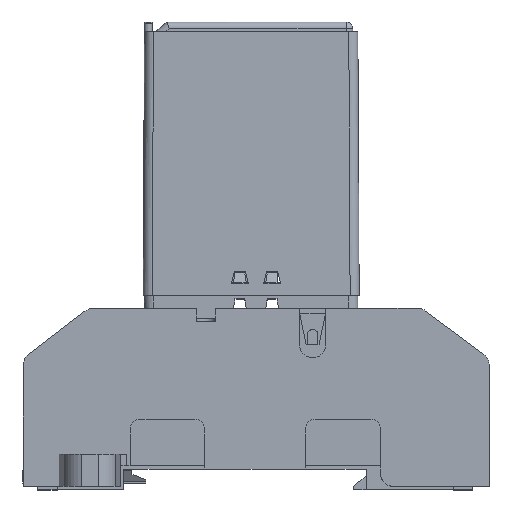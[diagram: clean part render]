
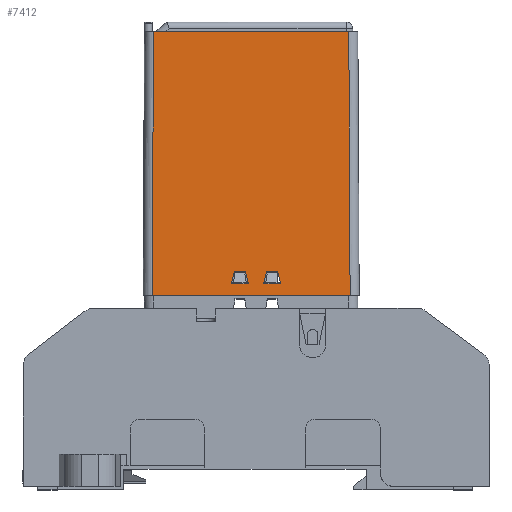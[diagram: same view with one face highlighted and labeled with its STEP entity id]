
A CAD part, top view. The second image highlights one B-rep face of the part: STEP entity #7412.
In plain terms, the highlighted planar face has unit normal (0, 0.005, 1) as drawn and (0, 0.005, -1) by its records, which use the part's own axes.
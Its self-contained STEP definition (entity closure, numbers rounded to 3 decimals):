
#7412=ADVANCED_FACE('',(#16226,#16228,#16230),#16232,.T.);
#16226=FACE_BOUND('',#16227,.T.);
#16227=EDGE_LOOP('',(#23315,#23316,#23317,#23318));
#16228=FACE_BOUND('',#16229,.T.);
#16229=EDGE_LOOP('',(#23319,#23320,#23321,#23322));
#16230=FACE_BOUND('',#16231,.T.);
#16231=EDGE_LOOP('',(#23323,#23324,#23325,#23326));
#16232=PLANE('',#16233);
#16233=AXIS2_PLACEMENT_3D('',#16234,#16235,#16236);
#16234=CARTESIAN_POINT('',(-15.1,44.3,-13.75));
#16235=DIRECTION('',(0.,0.005,-1.));
#16236=DIRECTION('',(1.,0.,0.));
#23315=ORIENTED_EDGE('',*,*,#26765,.F.);
#23316=ORIENTED_EDGE('',*,*,#27332,.F.);
#23317=ORIENTED_EDGE('',*,*,#27333,.T.);
#23318=ORIENTED_EDGE('',*,*,#27091,.T.);
#23319=ORIENTED_EDGE('',*,*,#27334,.T.);
#23320=ORIENTED_EDGE('',*,*,#27335,.T.);
#23321=ORIENTED_EDGE('',*,*,#27336,.T.);
#23322=ORIENTED_EDGE('',*,*,#27337,.T.);
#23323=ORIENTED_EDGE('',*,*,#27338,.T.);
#23324=ORIENTED_EDGE('',*,*,#27339,.T.);
#23325=ORIENTED_EDGE('',*,*,#27340,.T.);
#23326=ORIENTED_EDGE('',*,*,#27341,.T.);
#26765=EDGE_CURVE('',#30995,#30997,#30998,.T.);
#27091=EDGE_CURVE('',#31514,#30997,#31515,.T.);
#27332=EDGE_CURVE('',#31930,#30995,#31932,.T.);
#27333=EDGE_CURVE('',#31930,#31514,#31933,.T.);
#27334=EDGE_CURVE('',#31934,#31935,#31936,.F.);
#27335=EDGE_CURVE('',#31935,#31937,#31938,.F.);
#27336=EDGE_CURVE('',#31937,#31939,#31940,.F.);
#27337=EDGE_CURVE('',#31939,#31934,#31941,.F.);
#27338=EDGE_CURVE('',#31942,#31943,#31944,.F.);
#27339=EDGE_CURVE('',#31943,#31945,#31946,.F.);
#27340=EDGE_CURVE('',#31945,#31947,#31948,.F.);
#27341=EDGE_CURVE('',#31947,#31942,#31949,.F.);
#30995=VERTEX_POINT('',#39763);
#30997=VERTEX_POINT('',#39768);
#30998=LINE('',#39769,#39770);
#31514=VERTEX_POINT('',#40982);
#31515=LINE('',#40983,#40984);
#31930=VERTEX_POINT('',#41935);
#31932=LINE('',#41940,#41941);
#31933=LINE('',#41943,#41944);
#31934=VERTEX_POINT('',#41946);
#31935=VERTEX_POINT('',#41947);
#31936=LINE('',#41948,#41949);
#31937=VERTEX_POINT('',#41951);
#31938=LINE('',#41952,#41953);
#31939=VERTEX_POINT('',#41955);
#31940=LINE('',#41956,#41957);
#31941=LINE('',#41959,#41960);
#31942=VERTEX_POINT('',#41962);
#31943=VERTEX_POINT('',#41963);
#31944=LINE('',#41964,#41965);
#31945=VERTEX_POINT('',#41967);
#31946=LINE('',#41968,#41969);
#31947=VERTEX_POINT('',#41971);
#31948=LINE('',#41972,#41973);
#31949=LINE('',#41975,#41976);
#39763=CARTESIAN_POINT('',(-15.3,3.5,-13.95));
#39768=CARTESIAN_POINT('',(15.3,3.5,-13.95));
#39769=CARTESIAN_POINT('',(-15.3,3.5,-13.95));
#39770=VECTOR('',#39771,1.);
#39771=DIRECTION('',(1.,0.,0.));
#40982=CARTESIAN_POINT('',(15.1,44.3,-13.75));
#40983=CARTESIAN_POINT('',(15.1,44.3,-13.75));
#40984=VECTOR('',#40985,1.);
#40985=DIRECTION('',(0.005,-1.,-0.005));
#41935=CARTESIAN_POINT('',(-15.1,44.3,-13.75));
#41940=CARTESIAN_POINT('',(-15.1,44.3,-13.75));
#41941=VECTOR('',#41942,1.);
#41942=DIRECTION('',(-0.005,-1.,-0.005));
#41943=CARTESIAN_POINT('',(-15.1,44.3,-13.75));
#41944=VECTOR('',#41945,1.);
#41945=DIRECTION('',(1.,0.,0.));
#41946=CARTESIAN_POINT('',(-2.35,7.15,-13.932));
#41947=CARTESIAN_POINT('',(-4.15,7.15,-13.932));
#41948=CARTESIAN_POINT('',(-4.15,7.15,-13.932));
#41949=VECTOR('',#41950,1.);
#41950=DIRECTION('',(1.,0.,0.));
#41951=CARTESIAN_POINT('',(-4.55,5.35,-13.941));
#41952=CARTESIAN_POINT('',(-4.55,5.35,-13.941));
#41953=VECTOR('',#41954,1.);
#41954=DIRECTION('',(0.217,0.976,0.005));
#41955=CARTESIAN_POINT('',(-1.95,5.35,-13.941));
#41956=CARTESIAN_POINT('',(-1.95,5.35,-13.941));
#41957=VECTOR('',#41958,1.);
#41958=DIRECTION('',(-1.,0.,0.));
#41959=CARTESIAN_POINT('',(-2.35,7.15,-13.932));
#41960=VECTOR('',#41961,1.);
#41961=DIRECTION('',(0.217,-0.976,-0.005));
#41962=CARTESIAN_POINT('',(0.45,5.35,-13.941));
#41963=CARTESIAN_POINT('',(3.05,5.35,-13.941));
#41964=CARTESIAN_POINT('',(3.05,5.35,-13.941));
#41965=VECTOR('',#41966,1.);
#41966=DIRECTION('',(-1.,0.,0.));
#41967=CARTESIAN_POINT('',(2.65,7.15,-13.932));
#41968=CARTESIAN_POINT('',(2.65,7.15,-13.932));
#41969=VECTOR('',#41970,1.);
#41970=DIRECTION('',(0.217,-0.976,-0.005));
#41971=CARTESIAN_POINT('',(0.85,7.15,-13.932));
#41972=CARTESIAN_POINT('',(0.85,7.15,-13.932));
#41973=VECTOR('',#41974,1.);
#41974=DIRECTION('',(1.,0.,0.));
#41975=CARTESIAN_POINT('',(0.45,5.35,-13.941));
#41976=VECTOR('',#41977,1.);
#41977=DIRECTION('',(0.217,0.976,0.005));
